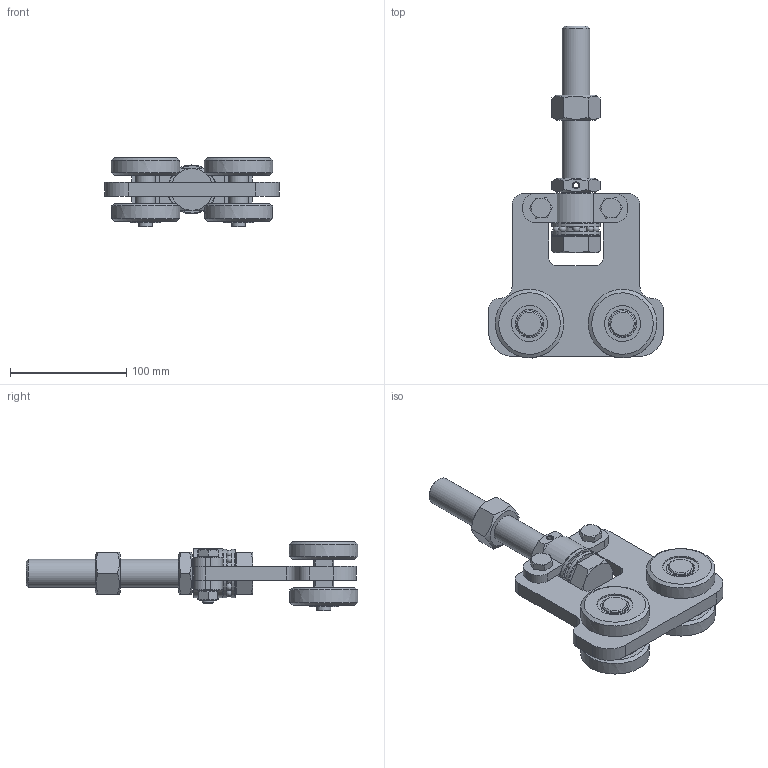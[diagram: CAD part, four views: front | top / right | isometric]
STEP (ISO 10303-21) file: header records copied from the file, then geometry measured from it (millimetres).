
FILE_DESCRIPTION(/* description */ ('Brennteil'),/* implementation_level */ '2;1');
FILE_NAME(/* name */ 'Q:\sge-ma\Produktmanagement-STB\STB\Workspace\stp\010336952.stp',/* time_stamp */ '2016-07-14T07:38:09+02:00',/* author */ ('avschreier'),/* organization */ (''),/* preprocessor_version */ 'ST-DEVELOPER v16.1',/* originating_system */ 'Autodesk Inventor 2016',/* authorisation */ '');
FILE_SCHEMA (('AUTOMOTIVE_DESIGN { 1 0 10303 214 3 1 1 }'));
Length unit declared in the file: millimetre
Products named in the file (17): 000302043; 000302018; 000302033; 000302042; DIN 1440 - 25 x13; 337000287; DIN_625-6203_ZZ_en; 000303241; DIN_EN_ISO_4032-M10_en; DIN_EN_ISO_4032-M24_en; DIN_EN_ISO_4017-M10x40_en; DIN_6798-A_10,5_en; DIN_EN_ISO_4035-M24x2_en; DIN_EN_ISO_4017-M24x180_en; DIN_711-51105_en; ISO 13337-6x35_en; 010336952
Assembly tree (32 placements, depth 3):
  010336952
    000302043
    000302018  x2
    000302033  x2
    000302042  x8
    DIN 1440 - 25 x13  x2
    000303241  x4
      337000287
      DIN_625-6203_ZZ_en
    DIN_EN_ISO_4032-M10_en  x2
    DIN_EN_ISO_4032-M24_en
    DIN_EN_ISO_4017-M10x40_en  x2
    DIN_6798-A_10,5_en  x2
    DIN_EN_ISO_4035-M24x2_en
    DIN_EN_ISO_4017-M24x180_en
    DIN_711-51105_en
    ISO 13337-6x35_en
Bounding box: 150 x 285.42 x 60 mm (x, y, z)
Volume: 491999.1 mm3; surface area: 171250.5 mm2
Topology: 43 solids, 47 shells, 810 faces, 2197 edges, 1445 vertices
Faces by surface type: plane 356, cylinder 262, torus 92, cone 60, sphere 36, bspline 4
Full cylindrical faces by diameter (mm): 6 x3, 8.376 x2, 9.188 x2, 10 x2, 10.5 x2, 10.7 x2, 11.2 x4, 12 x4, 15.4 x2, 16.9 x2, 17 x4, 20.752 x1, 21.835 x1, 22 x2, 22.376 x1, 24 x1, 24.36 x16, 25 x3, 26 x1, 31 x4, 32.64 x16, 33.2 x1, 40 x8, 42 x2
Entity records: 12184 total; most frequent: CARTESIAN_POINT 2909, DIRECTION 1952, ORIENTED_EDGE 1754, EDGE_CURVE 861, AXIS2_PLACEMENT_3D 791, VERTEX_POINT 604, EDGE_LOOP 507, ADVANCED_FACE 373
